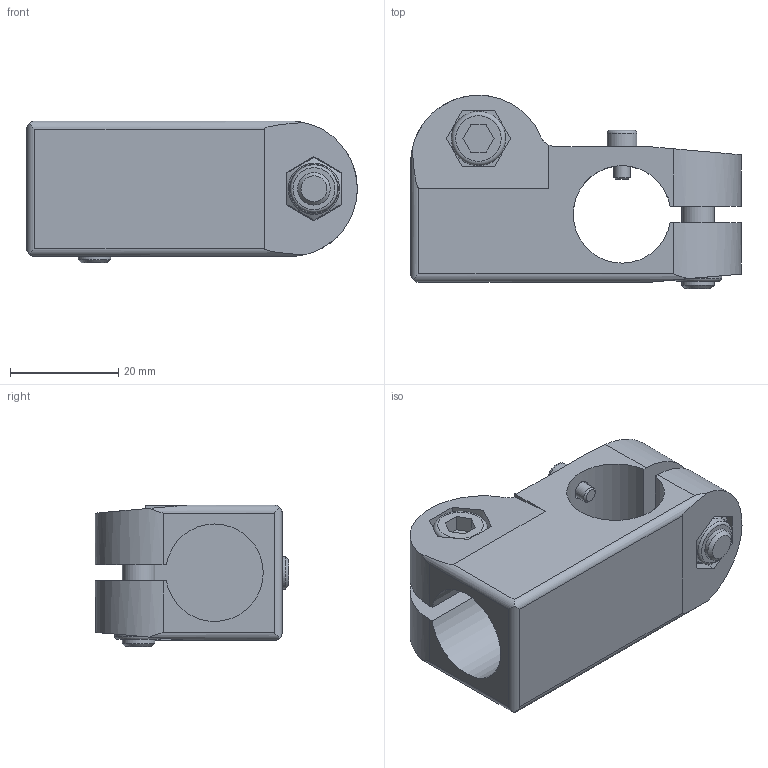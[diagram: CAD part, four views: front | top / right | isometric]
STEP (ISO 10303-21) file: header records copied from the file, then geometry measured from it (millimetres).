
FILE_DESCRIPTION( ( 'STEP AP203' ), '1' );
FILE_NAME( 'C:/Temp/Ganter_Step_05_03_2020/data/3_8/191_1/gn191_1_2_ni/Stainless Steel-Flanged linear actuator connector GN 191.1-G18-B18-2-NI.stp', '2020-03-12T14:57:34', ( 'License CC BY-ND 4.0' ), ( 'CADENAS' ), ' ', 'PARTsolutions', ' ' );
FILE_SCHEMA( ( 'CONFIG_CONTROL_DESIGN' ) );
Length unit declared in the file: millimetre
Products named in the file (1): _Stainless Steel-Flanged linear actuator connector GN 191.1-G18-B18-2-NI
Bounding box: 61 x 35.69 x 26.2 mm (x, y, z)
Volume: 25305.4 mm3; surface area: 12834.4 mm2
Topology: 1 solids, 1 shells, 144 faces, 340 edges, 222 vertices
Faces by surface type: plane 100, cylinder 28, cone 8, torus 8
Full cylindrical faces by diameter (mm): 3 x2, 3.5 x2, 5.5 x2, 6 x4, 6.5 x4, 10 x2
Entity records: 4186 total; most frequent: CARTESIAN_POINT 913, DIRECTION 652, ORIENTED_EDGE 612, EDGE_CURVE 306, VERTEX_POINT 220, AXIS2_PLACEMENT_3D 219, LINE 214, VECTOR 214
